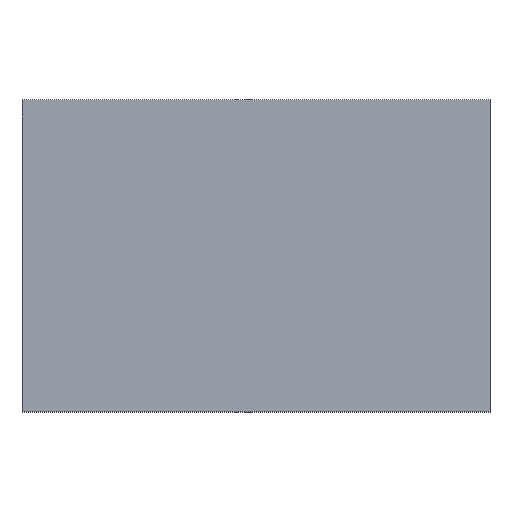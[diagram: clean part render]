
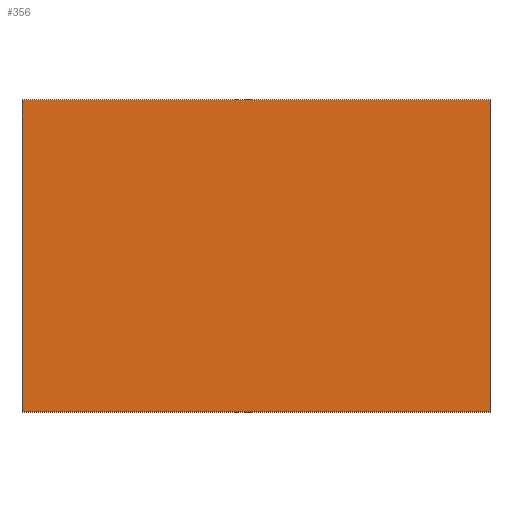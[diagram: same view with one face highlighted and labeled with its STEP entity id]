
A CAD part, top view. The second image highlights one B-rep face of the part: STEP entity #356.
In plain terms, the highlighted planar face has unit normal (0, 0, 1).
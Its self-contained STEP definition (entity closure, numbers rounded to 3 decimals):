
#42 = VERTEX_POINT('',#43);
#43 = CARTESIAN_POINT('',(-3.,-2.,0.8));
#50 = PLANE('',#51);
#51 = AXIS2_PLACEMENT_3D('',#52,#53,#54);
#52 = CARTESIAN_POINT('',(-3.,-2.,0.));
#53 = DIRECTION('',(1.,0.,0.));
#54 = DIRECTION('',(0.,0.,1.));
#62 = PLANE('',#63);
#63 = AXIS2_PLACEMENT_3D('',#64,#65,#66);
#64 = CARTESIAN_POINT('',(-3.,-2.,0.));
#65 = DIRECTION('',(0.,1.,0.));
#66 = DIRECTION('',(0.,0.,1.));
#103 = VERTEX_POINT('',#104);
#104 = CARTESIAN_POINT('',(-3.,2.,0.8));
#118 = PLANE('',#119);
#119 = AXIS2_PLACEMENT_3D('',#120,#121,#122);
#120 = CARTESIAN_POINT('',(-3.,2.,0.));
#121 = DIRECTION('',(0.,1.,0.));
#122 = DIRECTION('',(0.,0.,1.));
#130 = EDGE_CURVE('',#42,#103,#131,.T.);
#131 = SURFACE_CURVE('',#132,(#136,#143),.PCURVE_S1.);
#132 = LINE('',#133,#134);
#133 = CARTESIAN_POINT('',(-3.,-2.,0.8));
#134 = VECTOR('',#135,1.);
#135 = DIRECTION('',(0.,1.,0.));
#136 = PCURVE('',#50,#137);
#137 = DEFINITIONAL_REPRESENTATION('',(#138),#142);
#138 = LINE('',#139,#140);
#139 = CARTESIAN_POINT('',(0.8,0.));
#140 = VECTOR('',#141,1.);
#141 = DIRECTION('',(0.,-1.));
#142 = ( GEOMETRIC_REPRESENTATION_CONTEXT(2) 
PARAMETRIC_REPRESENTATION_CONTEXT() REPRESENTATION_CONTEXT('2D SPACE',''
  ) );
#143 = PCURVE('',#144,#149);
#144 = PLANE('',#145);
#145 = AXIS2_PLACEMENT_3D('',#146,#147,#148);
#146 = CARTESIAN_POINT('',(-3.,-2.,0.8));
#147 = DIRECTION('',(0.,0.,1.));
#148 = DIRECTION('',(1.,0.,0.));
#149 = DEFINITIONAL_REPRESENTATION('',(#150),#154);
#150 = LINE('',#151,#152);
#151 = CARTESIAN_POINT('',(0.,0.));
#152 = VECTOR('',#153,1.);
#153 = DIRECTION('',(0.,1.));
#154 = ( GEOMETRIC_REPRESENTATION_CONTEXT(2) 
PARAMETRIC_REPRESENTATION_CONTEXT() REPRESENTATION_CONTEXT('2D SPACE',''
  ) );
#162 = VERTEX_POINT('',#163);
#163 = CARTESIAN_POINT('',(3.,-2.,0.8));
#170 = PLANE('',#171);
#171 = AXIS2_PLACEMENT_3D('',#172,#173,#174);
#172 = CARTESIAN_POINT('',(3.,-2.,0.));
#173 = DIRECTION('',(1.,0.,0.));
#174 = DIRECTION('',(0.,0.,1.));
#213 = VERTEX_POINT('',#214);
#214 = CARTESIAN_POINT('',(3.,2.,0.8));
#235 = EDGE_CURVE('',#162,#213,#236,.T.);
#236 = SURFACE_CURVE('',#237,(#241,#248),.PCURVE_S1.);
#237 = LINE('',#238,#239);
#238 = CARTESIAN_POINT('',(3.,-2.,0.8));
#239 = VECTOR('',#240,1.);
#240 = DIRECTION('',(0.,1.,0.));
#241 = PCURVE('',#170,#242);
#242 = DEFINITIONAL_REPRESENTATION('',(#243),#247);
#243 = LINE('',#244,#245);
#244 = CARTESIAN_POINT('',(0.8,0.));
#245 = VECTOR('',#246,1.);
#246 = DIRECTION('',(0.,-1.));
#247 = ( GEOMETRIC_REPRESENTATION_CONTEXT(2) 
PARAMETRIC_REPRESENTATION_CONTEXT() REPRESENTATION_CONTEXT('2D SPACE',''
  ) );
#248 = PCURVE('',#144,#249);
#249 = DEFINITIONAL_REPRESENTATION('',(#250),#254);
#250 = LINE('',#251,#252);
#251 = CARTESIAN_POINT('',(6.,0.));
#252 = VECTOR('',#253,1.);
#253 = DIRECTION('',(0.,1.));
#254 = ( GEOMETRIC_REPRESENTATION_CONTEXT(2) 
PARAMETRIC_REPRESENTATION_CONTEXT() REPRESENTATION_CONTEXT('2D SPACE',''
  ) );
#281 = EDGE_CURVE('',#42,#162,#282,.T.);
#282 = SURFACE_CURVE('',#283,(#287,#294),.PCURVE_S1.);
#283 = LINE('',#284,#285);
#284 = CARTESIAN_POINT('',(-3.,-2.,0.8));
#285 = VECTOR('',#286,1.);
#286 = DIRECTION('',(1.,0.,0.));
#287 = PCURVE('',#62,#288);
#288 = DEFINITIONAL_REPRESENTATION('',(#289),#293);
#289 = LINE('',#290,#291);
#290 = CARTESIAN_POINT('',(0.8,0.));
#291 = VECTOR('',#292,1.);
#292 = DIRECTION('',(0.,1.));
#293 = ( GEOMETRIC_REPRESENTATION_CONTEXT(2) 
PARAMETRIC_REPRESENTATION_CONTEXT() REPRESENTATION_CONTEXT('2D SPACE',''
  ) );
#294 = PCURVE('',#144,#295);
#295 = DEFINITIONAL_REPRESENTATION('',(#296),#300);
#296 = LINE('',#297,#298);
#297 = CARTESIAN_POINT('',(0.,0.));
#298 = VECTOR('',#299,1.);
#299 = DIRECTION('',(1.,0.));
#300 = ( GEOMETRIC_REPRESENTATION_CONTEXT(2) 
PARAMETRIC_REPRESENTATION_CONTEXT() REPRESENTATION_CONTEXT('2D SPACE',''
  ) );
#328 = EDGE_CURVE('',#103,#213,#329,.T.);
#329 = SURFACE_CURVE('',#330,(#334,#341),.PCURVE_S1.);
#330 = LINE('',#331,#332);
#331 = CARTESIAN_POINT('',(-3.,2.,0.8));
#332 = VECTOR('',#333,1.);
#333 = DIRECTION('',(1.,0.,0.));
#334 = PCURVE('',#118,#335);
#335 = DEFINITIONAL_REPRESENTATION('',(#336),#340);
#336 = LINE('',#337,#338);
#337 = CARTESIAN_POINT('',(0.8,0.));
#338 = VECTOR('',#339,1.);
#339 = DIRECTION('',(0.,1.));
#340 = ( GEOMETRIC_REPRESENTATION_CONTEXT(2) 
PARAMETRIC_REPRESENTATION_CONTEXT() REPRESENTATION_CONTEXT('2D SPACE',''
  ) );
#341 = PCURVE('',#144,#342);
#342 = DEFINITIONAL_REPRESENTATION('',(#343),#347);
#343 = LINE('',#344,#345);
#344 = CARTESIAN_POINT('',(0.,4.));
#345 = VECTOR('',#346,1.);
#346 = DIRECTION('',(1.,0.));
#347 = ( GEOMETRIC_REPRESENTATION_CONTEXT(2) 
PARAMETRIC_REPRESENTATION_CONTEXT() REPRESENTATION_CONTEXT('2D SPACE',''
  ) );
#356 = ADVANCED_FACE('',(#357),#144,.T.);
#357 = FACE_BOUND('',#358,.T.);
#358 = EDGE_LOOP('',(#359,#360,#361,#362));
#359 = ORIENTED_EDGE('',*,*,#130,.F.);
#360 = ORIENTED_EDGE('',*,*,#281,.T.);
#361 = ORIENTED_EDGE('',*,*,#235,.T.);
#362 = ORIENTED_EDGE('',*,*,#328,.F.);
